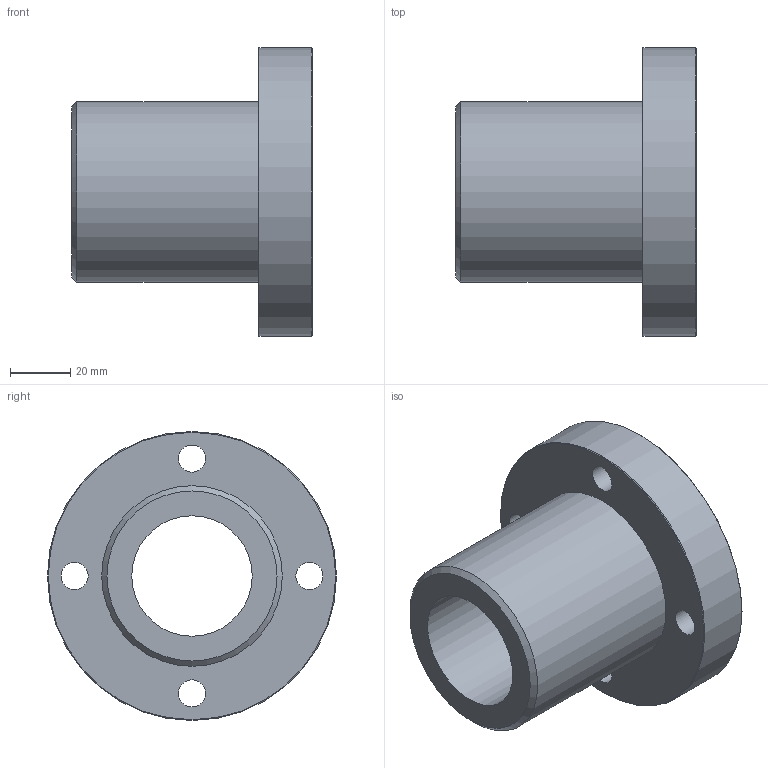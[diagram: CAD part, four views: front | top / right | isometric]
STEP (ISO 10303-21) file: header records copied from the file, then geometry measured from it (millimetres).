
FILE_DESCRIPTION(('STEP AP203'),'1');
FILE_NAME('//192.168.1.1/share/s-4 技術開発/s-4-4_CAD/s-4-4-3_見直し済み/PBC LINEAR修正済み/3D途中/SFPJ/SFPJR/SFPJR40.step','2022-03-24T06:28:50',(' '),(' '),'Spatial InterOp 3D',' ',' ');
FILE_SCHEMA(('CONFIG_CONTROL_DESIGN'));
Length unit declared in the file: millimetre
Products named in the file (1): 1
Bounding box: 80 x 96 x 96 mm (x, y, z)
Volume: 197248.8 mm3; surface area: 40880.3 mm2
Topology: 1 solids, 1 shells, 21 faces, 43 edges, 29 vertices
Faces by surface type: cylinder 11, plane 7, cone 3
Full cylindrical faces by diameter (mm): 9 x4, 14 x4, 40 x1, 60 x1, 96 x1
Entity records: 528 total; most frequent: DIRECTION 94, CARTESIAN_POINT 72, EDGE_LOOP 50, ORIENTED_EDGE 50, AXIS2_PLACEMENT_3D 47, FACE_OUTER_BOUND 32, EDGE_CURVE 25, VERTEX_POINT 25
